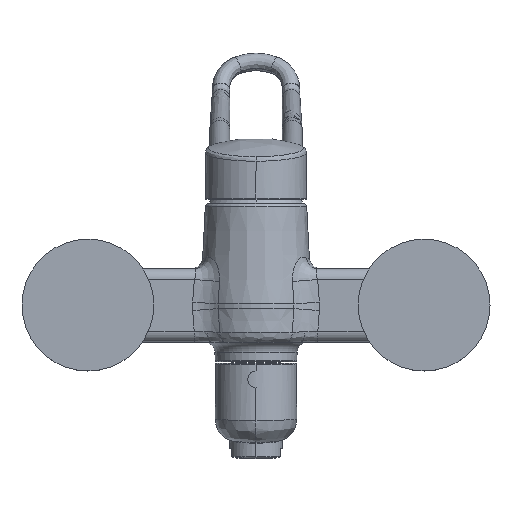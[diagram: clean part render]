
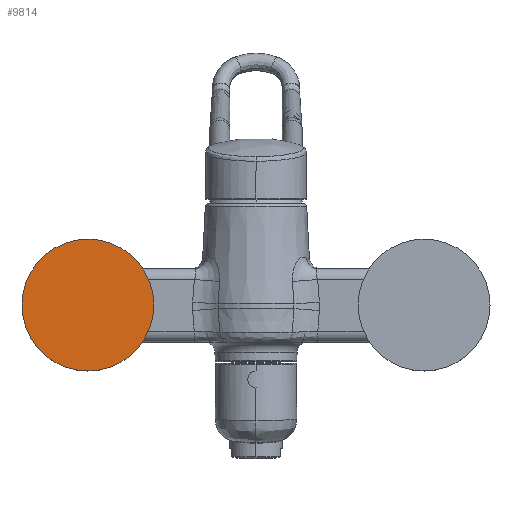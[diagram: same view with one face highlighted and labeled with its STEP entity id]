
A CAD part, top view. The second image highlights one B-rep face of the part: STEP entity #9814.
In plain terms, the highlighted planar face has unit normal (0, 0, 1).
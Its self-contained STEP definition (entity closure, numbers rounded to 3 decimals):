
#9642=CARTESIAN_POINT('',(-76.5,0.45,75.3));
#9643=DIRECTION('',(0.,0.,-1.));
#9644=DIRECTION('',(1.,0.,0.));
#9645=AXIS2_PLACEMENT_3D('',#9642,#9643,#9644);
#9651=CARTESIAN_POINT('',(-76.5,0.45,75.3));
#9652=DIRECTION('',(0.,0.,1.));
#9653=DIRECTION('',(1.,0.,0.));
#9654=AXIS2_PLACEMENT_3D('',#9651,#9652,#9653);
#9694=CARTESIAN_POINT('',(-46.5,0.45,75.3));
#9695=VERTEX_POINT('',#9694);
#9696=CARTESIAN_POINT('',(-106.5,0.45,75.3));
#9697=VERTEX_POINT('',#9696);
#9805=CARTESIAN_POINT('',(-76.5,0.45,75.3));
#9806=DIRECTION('',(0.,0.,1.));
#9807=DIRECTION('',(-1.,0.,0.));
#9808=AXIS2_PLACEMENT_3D('',#9805,#9806,#9807);
#9809=PLANE('',#9808);
#9810=ORIENTED_EDGE('',*,*,#9799,.F.);
#9811=ORIENTED_EDGE('',*,*,#9785,.T.);
#9812=EDGE_LOOP('',(#9810,#9811));
#9813=FACE_OUTER_BOUND('',#9812,.F.);
#9814=ADVANCED_FACE('',(#9813),#9809,.T.);
#9646=CIRCLE('',#9645,30.);
#9655=CIRCLE('',#9654,30.);
#9785=EDGE_CURVE('',#9695,#9697,#9646,.T.);
#9799=EDGE_CURVE('',#9695,#9697,#9655,.T.);
